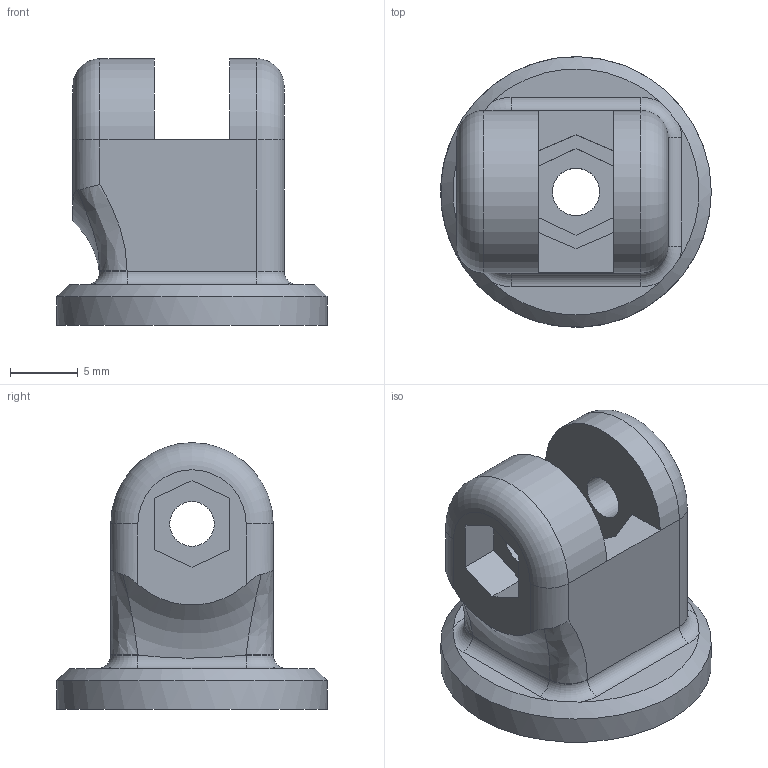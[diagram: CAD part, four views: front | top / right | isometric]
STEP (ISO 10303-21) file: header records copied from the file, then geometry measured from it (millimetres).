
FILE_DESCRIPTION(/* description */ (''),/* implementation_level */ '2;1');
FILE_NAME(/* name */ 'D:\3D печать\Мои проекты\Archy MK 2\STEP\крепление ответного винта для концевика.stp',/* time_stamp */ '2019-03-20T22:08:33+06:00',/* author */ ('Пользователь'),/* organization */ (''),/* preprocessor_version */ 'ST-DEVELOPER v16.5',/* originating_system */ 'Autodesk Inventor 2017',/* authorisation */ '');
FILE_SCHEMA (('AUTOMOTIVE_DESIGN { 1 0 10303 214 3 1 1 }'));
Length unit declared in the file: millimetre
Products named in the file (1): крепление \X2\043E0442043204350442
043D043E0433043E\X0\ винта для 
концевика
Bounding box: 20 x 20 x 19.7 mm (x, y, z)
Volume: 2760.4 mm3; surface area: 1949.8 mm2
Topology: 1 solids, 1 shells, 59 faces, 149 edges, 93 vertices
Faces by surface type: plane 33, cylinder 16, torus 7, bspline 2, cone 1
Full cylindrical faces by diameter (mm): 3.3 x2, 3.5 x1, 20 x1
Entity records: 1909 total; most frequent: CARTESIAN_POINT 476, DIRECTION 293, ORIENTED_EDGE 286, EDGE_CURVE 143, AXIS2_PLACEMENT_3D 105, VERTEX_POINT 92, LINE 83, VECTOR 83
